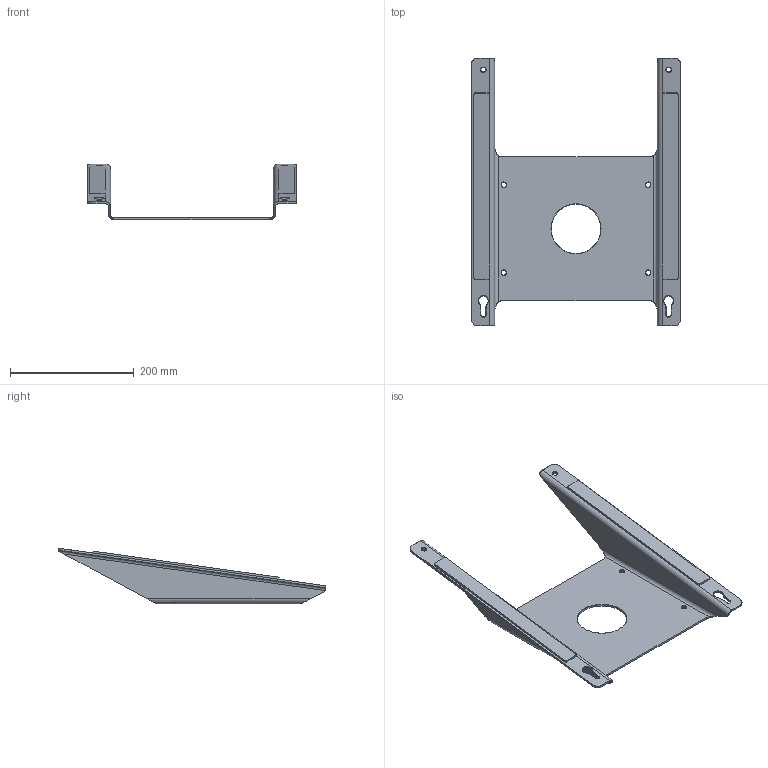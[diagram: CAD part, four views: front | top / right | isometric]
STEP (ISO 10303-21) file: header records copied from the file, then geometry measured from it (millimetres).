
FILE_DESCRIPTION(/* description */ (''),/* implementation_level */ '2;1');
FILE_NAME(/* name */ 'Flat High Performance Wedge Mount.stp',/* time_stamp */ '2022-10-06T18:19:33-07:00',/* author */ (''),/* organization */ (''),/* preprocessor_version */ 'ST-DEVELOPER v18.102',/* originating_system */ 'SIEMENS PLM Software NX 2023',/* authorisation */ '');
FILE_SCHEMA (('AUTOMOTIVE_DESIGN { 1 0 10303 214 3 1 1 1 }'));
Length unit declared in the file: millimetre
Products named in the file (3): 01676775-003_A; 01676775-022_B; 01676775-505_A
Assembly tree (3 placements, depth 2):
  01676775-505_A
    01676775-022_B
    01676775-003_A  x2
Bounding box: 338 x 433.45 x 90.13 mm (x, y, z)
Volume: 425840.2 mm3; surface area: 280241.5 mm2
Topology: 3 solids, 3 shells, 104 faces, 277 edges, 179 vertices
Faces by surface type: cylinder 51, plane 38, torus 15
Full cylindrical faces by diameter (mm): 8 x6, 80 x1
Entity records: 3017 total; most frequent: CARTESIAN_POINT 576, DIRECTION 518, ORIENTED_EDGE 466, EDGE_CURVE 233, AXIS2_PLACEMENT_3D 205, VERTEX_POINT 157, EDGE_LOOP 126, LINE 108
